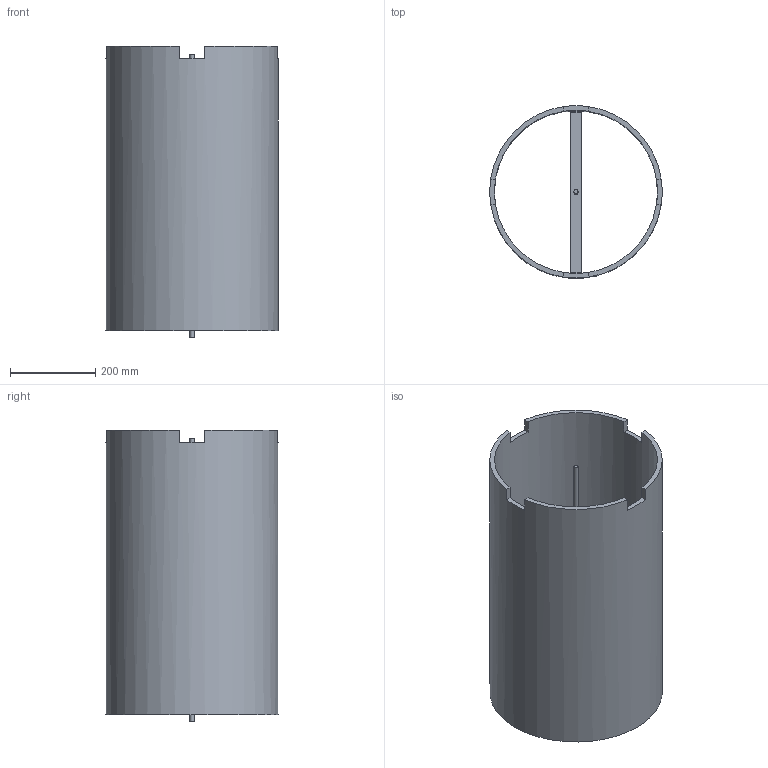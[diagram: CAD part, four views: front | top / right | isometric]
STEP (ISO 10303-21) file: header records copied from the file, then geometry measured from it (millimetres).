
FILE_DESCRIPTION( ( 'STEP AP214' ), '1' );
FILE_NAME( 'D:/Yug/2021/Delta/desk_and_office_organisation/QC/45828.stp', '2021-01-20T06:07:07', ( '' ), ( '' ), ' ', 'PARTsolutions', ' ' );
FILE_SCHEMA( ( 'AUTOMOTIVE_DESIGN { 1 0 10303 214 1 1 1 1 }' ) );
Length unit declared in the file: millimetre
Products named in the file (1): _45828
Bounding box: 404.94 x 404.74 x 686 mm (x, y, z)
Volume: 9097410.7 mm3; surface area: 1714809.6 mm2
Topology: 1 solids, 1 shells, 35 faces, 96 edges, 64 vertices
Faces by surface type: plane 31, cylinder 4
Full cylindrical faces by diameter (mm): 10 x2, 383 x1, 405 x1
Entity records: 1382 total; most frequent: CARTESIAN_POINT 188, DIRECTION 188, ORIENTED_EDGE 180, EDGE_CURVE 90, LINE 64, VECTOR 64, AXIS2_PLACEMENT_3D 62, VERTEX_POINT 62
